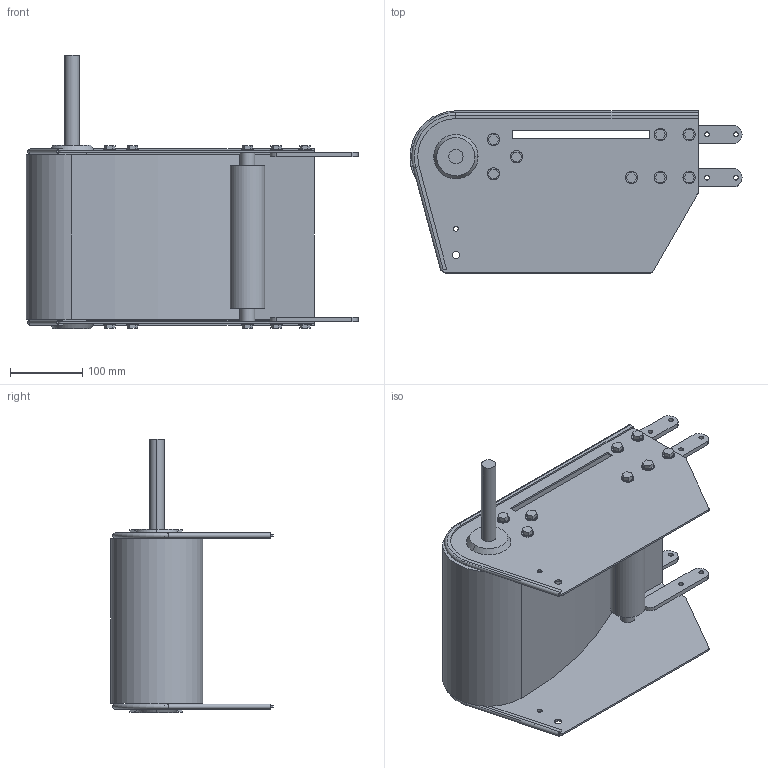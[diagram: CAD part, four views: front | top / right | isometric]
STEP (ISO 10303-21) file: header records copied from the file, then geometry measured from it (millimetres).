
FILE_DESCRIPTION (( 'STEP AP214' ), '1' );
FILE_NAME ('03.102D1L20.240 FS-240-MTS2-100.INOX Directe drive section left.STEP', '2025-02-04T12:34:39', ( '' ), ( '' ), 'SwSTEP 2.0', 'SolidWorks 2024', '' );
FILE_SCHEMA (( 'AUTOMOTIVE_DESIGN' ));
Length unit declared in the file: millimetre
Products named in the file (1): 03.102D1L20.240 FS-240-MTS2-100.INOX Directe drive section left
Bounding box: 461 x 225 x 380 mm (x, y, z)
Volume: 3090509 mm3; surface area: 883602.8 mm2
Topology: 4 solids, 4 shells, 325 faces, 794 edges, 516 vertices
Faces by surface type: plane 223, cylinder 96, cone 4, torus 2
Entity records: 9602 total; most frequent: DIRECTION 1650, CARTESIAN_POINT 1636, ORIENTED_EDGE 1588, EDGE_CURVE 794, LINE 590, VECTOR 590, AXIS2_PLACEMENT_3D 530, VERTEX_POINT 516
